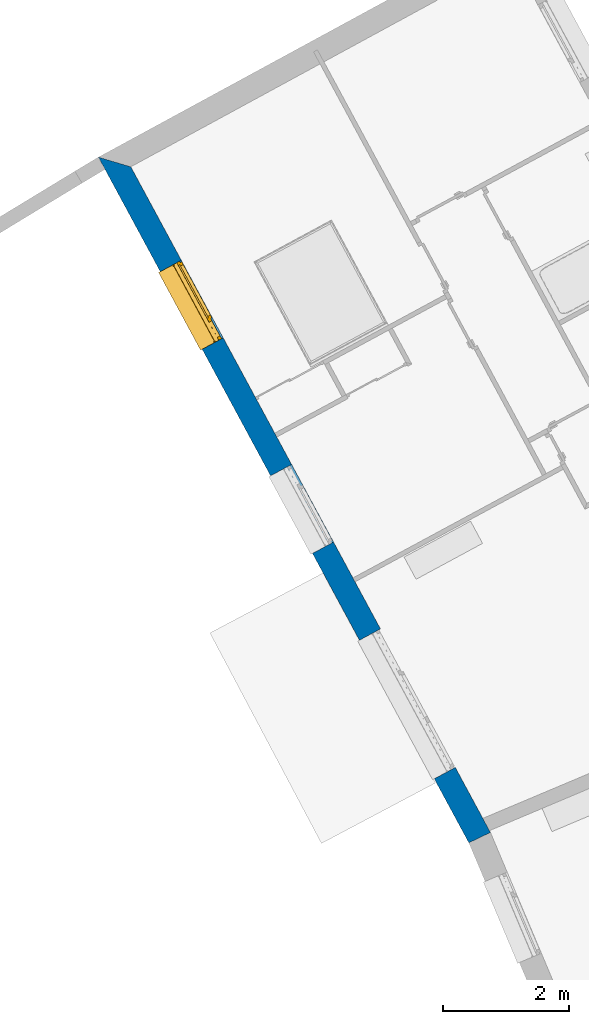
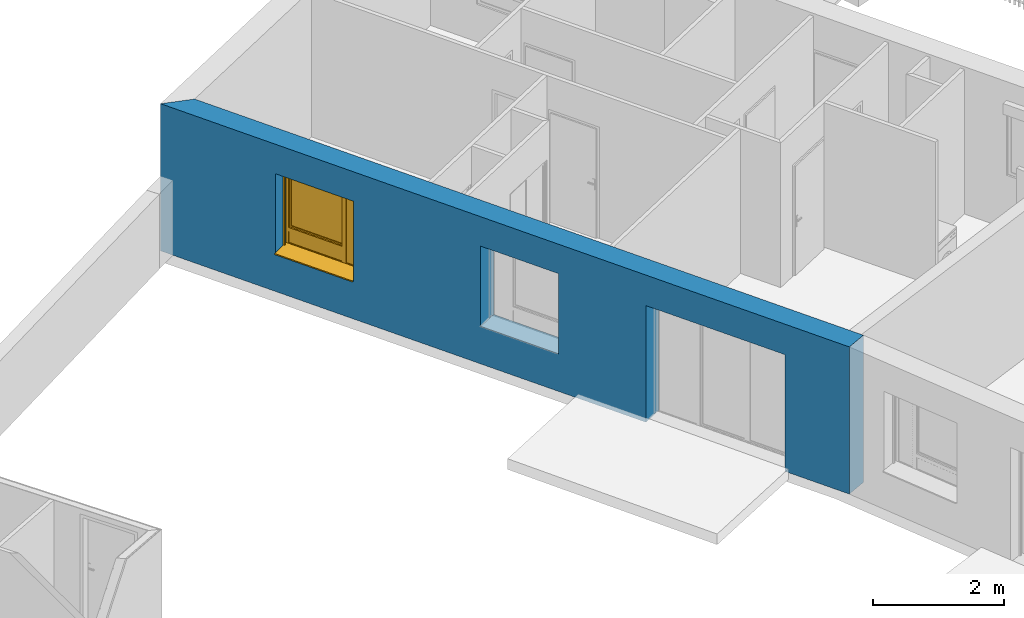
# One storey, part 60 of 195: 1 wall, 1 window, 3 openings.
"""IFC2X3 building model written with IfcOpenShell, lengths in metres."""

from ifc_helpers import new_model, entity, si_unit, converted_unit, derived_unit, money_unit, direction, frame, origin_with_axes, place, context, subcontext, project, spatial, polyline, outline, extrude, open_shell, faceted_brep, surface_model, source, transform, mapped, material, layer, layer_set, layer_usage, type_object, element, fill, save


model = new_model("IFC2X3")

# Units and contexts
model_context = context("Model", 3, precision=1e-05, world=origin_with_axes(), true_north=direction((0.0, 1.0)))
body_context = subcontext(model_context, "Body", "Model", "MODEL_VIEW")
ifc_project = project(units=[si_unit("LENGTHUNIT", "METRE"), si_unit("AREAUNIT", "SQUARE_METRE"), si_unit("VOLUMEUNIT", "CUBIC_METRE"), converted_unit("PLANEANGLEUNIT", "DEGREE", entity("IfcPlaneAngleMeasure", 0.0174532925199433), si_unit("PLANEANGLEUNIT", "RADIAN"), dimensions=[0, 0, 0, 0, 0, 0, 0]), money_unit("CHF"), converted_unit("TIMEUNIT", "Year", entity("IfcTimeMeasure", 31557600.0), si_unit("TIMEUNIT", "SECOND"), dimensions=[0, 0, 1, 0, 0, 0, 0]), si_unit("MASSUNIT", "GRAM", prefix="KILO"), si_unit("THERMODYNAMICTEMPERATUREUNIT", "DEGREE_CELSIUS"), si_unit("LUMINOUSINTENSITYUNIT", "LUMEN"), si_unit("ENERGYUNIT", "JOULE", prefix="MEGA"), derived_unit("THERMALCONDUCTANCEUNIT", [(si_unit("POWERUNIT", "WATT"), 1), (si_unit("LENGTHUNIT", "METRE"), -1), (si_unit("THERMODYNAMICTEMPERATUREUNIT", "KELVIN"), -1)]), derived_unit("SPECIFICHEATCAPACITYUNIT", [(si_unit("ENERGYUNIT", "JOULE"), 1), (si_unit("MASSUNIT", "GRAM", prefix="KILO"), -1), (si_unit("THERMODYNAMICTEMPERATUREUNIT", "KELVIN"), -1)]), derived_unit("MASSDENSITYUNIT", [(si_unit("MASSUNIT", "GRAM", prefix="KILO"), 1), (si_unit("VOLUMEUNIT", "CUBIC_METRE"), -1)])], contexts=[model_context])

# Site, building, storey
site_placement = place(None, origin_with_axes())
site = spatial("IfcSite", under=ifc_project, at=site_placement, Name="Site", CompositionType="ELEMENT")
building_placement = place(site_placement, origin_with_axes())
building = spatial("IfcBuilding", under=site, at=building_placement, Name="Bâtiment", CompositionType="ELEMENT")
storey_placement = place(building_placement, origin_with_axes())
storey = spatial("IfcBuildingStorey", under=building, at=storey_placement, Name="rdc", CompositionType="ELEMENT", Elevation=0.0)

# Wall, openings, window
ifc_material_1 = material(Name="Parpaing 312445824")
ifc_layer_1 = layer(ifc_material_1, 0.22, ventilated="UNKNOWN")
ifc_material_2 = material(Name="Isolant styromousse 301821074")
ifc_layer_2 = layer(ifc_material_2, 0.16, ventilated="UNKNOWN")
ifc_layer_set = layer_set([ifc_layer_1, ifc_layer_2], Name="isol int 22+16 0836643197")
ifc_layer_usage = layer_usage(ifc_layer_set, "AXIS2", "POSITIVE", 0.0)
wall_type = type_object("IfcWallType", Name="isol int 22+16 0836643197 380", PredefinedType="NOTDEFINED")
wall_placement = place(storey_placement, frame((9554.54696705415, -1027.671586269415, 57.7), z_axis=(0.0, 0.0, 1.0), x_axis=(0.4753186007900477, -0.8798137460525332, 0.0)))
wall = element("IfcWallStandardCase", 1, at=wall_placement, inside=storey, type_object=wall_type, material=ifc_layer_usage, Name="Mur-113", context=body_context, shape_type="SweptSolid", body=[
    extrude(outline(polyline([(0.0, 0.0), (12.38026928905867, 0.0), (12.39857098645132, 0.3799999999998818), (0.3790263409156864, 0.3799999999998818), (0.0, 0.0)])), origin_with_axes(), (0.0, 0.0, 1.0), 2.75),
])
opening_1_placement = place(wall_placement, frame((2.767904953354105, 0.0, 0.7000000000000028), z_axis=(0.0, 0.0, 1.0), x_axis=(1.0, 0.0, 0.0)))
opening_1 = element("IfcOpeningElement", 2, at=opening_1_placement, cuts=wall, Name="Fen-045", context=body_context, shape_type="Brep", body=[
    faceted_brep([(-0.7000000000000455, 0.4800000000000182, 1.5), (0.6999999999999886, 0.4800000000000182, 1.5), (0.6999999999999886, 5.558327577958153, 1.5), (-0.7000000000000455, 5.558327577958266, 1.5), (-0.7000000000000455, 0.4800000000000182, 1.700000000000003), (0.6999999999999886, 0.4800000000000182, 1.700000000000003), (0.6999999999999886, 0.2999999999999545, 1.5), (0.6999999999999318, 0.2999999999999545, 0.0), (0.6999999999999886, 5.558327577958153, 0.0), (-0.7000000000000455, 5.558327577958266, 0.0), (-0.7000000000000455, 0.2999999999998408, 1.5), (-0.7000000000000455, 0.2999999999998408, 0.0), (-0.7000000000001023, 0.2200000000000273, 1.5), (-0.7000000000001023, 0.2200000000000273, 1.700000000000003), (0.6999999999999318, 0.2200000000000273, 1.700000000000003), (0.6999999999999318, 0.2200000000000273, 1.5), (0.6999999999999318, -5.178327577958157, 1.5), (0.6999999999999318, -5.178327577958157, 0.0), (-0.7000000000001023, -5.178327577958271, 0.0), (-0.7000000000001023, -5.178327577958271, 1.5)], [[[0, 1, 2, 3]], [[1, 0, 4, 5]], [[1, 6, 7, 8, 2]], [[2, 8, 9, 3]], [[10, 0, 3, 9, 11]], [[0, 10, 12, 13, 4]], [[14, 5, 4, 13]], [[6, 1, 5, 14, 15]], [[6, 15, 16, 17, 7]], [[7, 11, 9, 8]], [[12, 10, 11, 18, 19]], [[12, 15, 14, 13]], [[15, 12, 19, 16]], [[19, 18, 17, 16]], [[11, 7, 17, 18]]]),
])
opening_2_placement = place(wall_placement, frame((9.97329666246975, 0.0, 0.0), z_axis=(0.0, 0.0, 1.0), x_axis=(1.0, 0.0, 0.0)))
element("IfcOpeningElement", 3, at=opening_2_placement, cuts=wall, Name="Fen-045", context=body_context, shape_type="Brep", body=[
    faceted_brep([(-1.25, 0.4800000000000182, 2.18), (1.25, 0.4800000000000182, 2.18), (1.25, 5.558327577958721, 2.18), (-1.250000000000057, 5.558327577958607, 2.18), (-1.25, 0.4800000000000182, 2.380000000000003), (1.25, 0.4800000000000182, 2.380000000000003), (1.25, 0.3000000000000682, 2.18), (1.25, 0.3000000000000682, 0.0), (1.25, 5.558327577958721, 0.0), (-1.250000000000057, 5.558327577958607, 0.0), (-1.250000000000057, 0.2999999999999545, 2.18), (-1.250000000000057, 0.2999999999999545, 0.0), (-1.250000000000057, 0.2199999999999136, 2.18), (-1.250000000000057, 0.2199999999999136, 2.380000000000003), (1.25, 0.2200000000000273, 2.380000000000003), (1.25, 0.2200000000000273, 2.18), (1.25, -5.17832757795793, 2.18), (1.25, -5.17832757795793, 0.0), (-1.25, -5.17832757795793, 0.0), (-1.25, -5.17832757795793, 2.18)], [[[0, 1, 2, 3]], [[1, 0, 4, 5]], [[1, 6, 7, 8, 2]], [[2, 8, 9, 3]], [[10, 0, 3, 9, 11]], [[0, 10, 12, 13, 4]], [[4, 13, 14, 5]], [[6, 1, 5, 14, 15]], [[6, 15, 16, 17, 7]], [[7, 11, 9, 8]], [[12, 10, 11, 18, 19]], [[12, 15, 14, 13]], [[15, 12, 19, 16]], [[19, 18, 17, 16]], [[11, 7, 17, 18]]]),
])
opening_3_placement = place(wall_placement, frame((6.454402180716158, 0.0, 0.7000000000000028), z_axis=(0.0, 0.0, 1.0), x_axis=(1.0, 0.0, 0.0)))
element("IfcOpeningElement", 4, at=opening_3_placement, cuts=wall, Name="Fen-045", context=body_context, shape_type="Brep", body=[
    faceted_brep([(-0.7000000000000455, 0.4800000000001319, 1.5), (0.6999999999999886, 0.4800000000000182, 1.5), (0.6999999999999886, 5.55832757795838, 1.5), (-0.7000000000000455, 5.55832757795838, 1.5), (-0.7000000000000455, 0.4800000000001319, 1.700000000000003), (0.6999999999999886, 0.4800000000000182, 1.700000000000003), (0.6999999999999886, 0.2999999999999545, 1.5), (0.6999999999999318, 0.2999999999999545, 0.0), (0.6999999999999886, 5.55832757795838, 0.0), (-0.7000000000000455, 5.55832757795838, 0.0), (-0.7000000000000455, 0.2999999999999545, 1.5), (-0.7000000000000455, 0.2999999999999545, 0.0), (-0.7000000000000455, 0.2200000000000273, 1.5), (-0.7000000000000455, 0.2200000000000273, 1.700000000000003), (0.6999999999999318, 0.2200000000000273, 1.700000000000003), (0.6999999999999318, 0.2200000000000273, 1.5), (0.6999999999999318, -5.178327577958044, 1.5), (0.6999999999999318, -5.178327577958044, 0.0), (-0.7000000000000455, -5.178327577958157, 0.0), (-0.7000000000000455, -5.178327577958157, 1.5)], [[[0, 1, 2, 3]], [[1, 0, 4, 5]], [[1, 6, 7, 8, 2]], [[2, 8, 9, 3]], [[10, 0, 3, 9, 11]], [[0, 10, 12, 13, 4]], [[4, 13, 14, 5]], [[6, 1, 5, 14, 15]], [[6, 15, 16, 17, 7]], [[7, 11, 9, 8]], [[12, 10, 11, 18, 19]], [[12, 15, 14, 13]], [[15, 12, 19, 16]], [[19, 18, 17, 16]], [[11, 7, 17, 18]]]),
])
window_style = type_object("IfcWindowStyle", Name="Fenêtre variable 27", ConstructionType="NOTDEFINED", OperationType="TRIPLE_PANEL_RIGHT", ParameterTakesPrecedence=False, Sizeable=False)
shared_shape = source(origin_with_axes(), body_context, "Body", "SurfaceModel", [
    surface_model("IfcShellBasedSurfaceModel", [(-0.7, -0.05100000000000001, 0.05), (-0.7, -0.05100000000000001, 0.04), (0.7, -0.05100000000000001, 0.04000000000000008), (0.7, -0.05100000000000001, 0.05000000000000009), (-0.7, -0.3799999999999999, 0.02899999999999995), (0.7, -0.3799999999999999, 0.02900000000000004), (-0.7, -0.3799999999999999, 0.008999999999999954), (0.7, -0.3799999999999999, 0.00900000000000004), (-0.7, -0.3699999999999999, 0.01899999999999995), (0.7, -0.3699999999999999, 0.01900000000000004)], [open_shell([[[0, 1, 2, 3]], [[1, 4, 5, 2]], [[4, 6, 7, 5]], [[6, 8, 9, 7]]])]),
    faceted_brep([(-0.7, -0.13, 1.7), (-0.697, -0.13, 1.7), (-0.697, 0.13, 1.7), (-0.7, 0.13, 1.7), (-0.7, -0.13, 1.5), (-0.697, -0.13, 1.5), (-0.697, 0.13, 1.5), (-0.7, 0.13, 1.5)], [[[0, 1, 2, 3]], [[4, 5, 1, 0]], [[1, 5, 6, 2]], [[3, 2, 6, 7]], [[0, 3, 7, 4]], [[7, 6, 5, 4]]]),
    faceted_brep([(0.6970000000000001, -0.1299999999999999, 1.7), (0.7000000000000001, -0.1299999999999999, 1.7), (0.7000000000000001, 0.1300000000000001, 1.7), (0.6970000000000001, 0.1300000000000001, 1.7), (0.6970000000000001, -0.1299999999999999, 1.5), (0.7000000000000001, -0.1299999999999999, 1.5), (0.7000000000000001, 0.1300000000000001, 1.5), (0.6970000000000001, 0.1300000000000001, 1.5)], [[[0, 1, 2, 3]], [[4, 5, 1, 0]], [[1, 5, 6, 2]], [[3, 2, 6, 7]], [[0, 3, 7, 4]], [[7, 6, 5, 4]]]),
    faceted_brep([(-0.697, -0.13, 1.5), (0.697, -0.1299999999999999, 1.5), (0.697, -0.1299999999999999, 1.7), (-0.697, -0.13, 1.7), (-0.697, -0.127, 1.5), (0.697, -0.1269999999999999, 1.5), (0.697, -0.1269999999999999, 1.697), (0.697, 0.1270000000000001, 1.697), (0.697, 0.1270000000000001, 1.503), (0.697, -0.1079999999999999, 1.503), (0.697, -0.1079999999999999, 1.5), (0.697, 0.1300000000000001, 1.5), (0.697, 0.1300000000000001, 1.7), (-0.697, 0.13, 1.7), (-0.697, 0.13, 1.5), (-0.697, -0.108, 1.5), (-0.697, -0.108, 1.503), (-0.697, 0.127, 1.503), (-0.697, 0.127, 1.697), (-0.697, -0.127, 1.697)], [[[0, 1, 2, 3]], [[4, 5, 1, 0]], [[1, 5, 6, 7, 8, 9, 10, 11, 12, 2]], [[3, 2, 12, 13]], [[0, 3, 13, 14, 15, 16, 17, 18, 19, 4]], [[19, 6, 5, 4]], [[18, 7, 6, 19]], [[17, 8, 7, 18]], [[16, 9, 8, 17]], [[15, 10, 9, 16]], [[14, 11, 10, 15]], [[13, 12, 11, 14]]]),
    faceted_brep([(-0.694, -0.08075423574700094, 1.585760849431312), (-0.694, -0.08200000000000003, 1.6), (-0.694, -0.0807542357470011, 1.614239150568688), (-0.694, -0.07705479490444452, 1.628045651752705), (-0.694, -0.07101408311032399, 1.641), (-0.694, -0.06281564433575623, 1.652708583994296), (-0.694, -0.05270858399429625, 1.662815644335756), (-0.694, -0.04100000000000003, 1.671014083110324), (-0.694, -0.02804565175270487, 1.677054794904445), (-0.694, -0.01423915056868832, 1.680754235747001), (-0.694, 0.0, 1.682), (-0.694, 0.01423915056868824, 1.680754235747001), (-0.694, 0.02804565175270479, 1.677054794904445), (-0.694, 0.04099999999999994, 1.671014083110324), (-0.694, 0.05270858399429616, 1.662815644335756), (-0.694, 0.06281564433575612, 1.652708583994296), (-0.694, 0.07101408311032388, 1.641), (-0.694, 0.0770547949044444, 1.628045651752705), (-0.694, 0.08075423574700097, 1.614239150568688), (-0.694, 0.0819999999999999, 1.6), (-0.694, 0.08075423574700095, 1.585760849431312), (-0.694, 0.07705479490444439, 1.571954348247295), (-0.694, 0.07101408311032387, 1.559), (-0.694, 0.06281564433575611, 1.547291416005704), (-0.694, 0.05270858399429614, 1.537184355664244), (-0.694, 0.04099999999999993, 1.528985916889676), (-0.694, 0.02804565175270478, 1.522945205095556), (-0.694, 0.01423915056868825, 1.519245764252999), (-0.694, 0.0, 1.518), (-0.694, -0.01423915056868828, 1.519245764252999), (-0.694, -0.02804565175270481, 1.522945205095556), (-0.694, -0.04099999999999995, 1.528985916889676), (-0.694, -0.05270858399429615, 1.537184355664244), (-0.694, -0.06281564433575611, 1.547291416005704), (-0.694, -0.07101408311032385, 1.559), (-0.694, -0.07705479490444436, 1.571954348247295), (0.694, -0.08075423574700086, 1.585760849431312), (0.694, -0.08199999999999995, 1.6), (0.694, -0.08075423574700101, 1.614239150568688), (0.694, -0.07705479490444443, 1.628045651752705), (0.694, -0.07101408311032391, 1.641), (0.694, -0.06281564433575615, 1.652708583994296), (0.694, -0.05270858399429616, 1.662815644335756), (0.694, -0.04099999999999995, 1.671014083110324), (0.694, -0.02804565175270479, 1.677054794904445), (0.694, -0.01423915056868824, 1.680754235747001), (0.694, 0.0, 1.682), (0.694, 0.01423915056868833, 1.680754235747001), (0.694, 0.02804565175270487, 1.677054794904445), (0.694, 0.04100000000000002, 1.671014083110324), (0.694, 0.05270858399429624, 1.662815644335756), (0.694, 0.0628156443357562, 1.652708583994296), (0.694, 0.07101408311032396, 1.641), (0.694, 0.07705479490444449, 1.628045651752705), (0.694, 0.08075423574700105, 1.614239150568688), (0.694, 0.08199999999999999, 1.6), (0.694, 0.08075423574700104, 1.585760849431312), (0.694, 0.07705479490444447, 1.571954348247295), (0.694, 0.07101408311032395, 1.559), (0.694, 0.06281564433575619, 1.547291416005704), (0.694, 0.05270858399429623, 1.537184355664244), (0.694, 0.04100000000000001, 1.528985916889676), (0.694, 0.02804565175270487, 1.522945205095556), (0.694, 0.01423915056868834, 1.519245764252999), (0.694, 0.0, 1.518), (0.694, -0.0142391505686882, 1.519245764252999), (0.694, -0.02804565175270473, 1.522945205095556), (0.694, -0.04099999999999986, 1.528985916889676), (0.694, -0.05270858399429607, 1.537184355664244), (0.694, -0.06281564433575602, 1.547291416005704), (0.694, -0.07101408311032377, 1.559), (0.694, -0.07705479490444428, 1.571954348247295)], [[[0, 1, 2, 3, 4, 5, 6, 7, 8, 9, 10, 11, 12, 13, 14, 15, 16, 17, 18, 19, 20, 21, 22, 23, 24, 25, 26, 27, 28, 29, 30, 31, 32, 33, 34, 35]], [[0, 36, 37, 1]], [[1, 37, 38, 2]], [[2, 38, 39, 3]], [[3, 39, 40, 4]], [[4, 40, 41, 5]], [[5, 41, 42, 6]], [[6, 42, 43, 7]], [[7, 43, 44, 8]], [[8, 44, 45, 9]], [[9, 45, 46, 10]], [[10, 46, 47, 11]], [[11, 47, 48, 12]], [[12, 48, 49, 13]], [[13, 49, 50, 14]], [[14, 50, 51, 15]], [[15, 51, 52, 16]], [[16, 52, 53, 17]], [[17, 53, 54, 18]], [[18, 54, 55, 19]], [[19, 55, 56, 20]], [[20, 56, 57, 21]], [[21, 57, 58, 22]], [[22, 58, 59, 23]], [[23, 59, 60, 24]], [[24, 60, 61, 25]], [[25, 61, 62, 26]], [[26, 62, 63, 27]], [[27, 63, 64, 28]], [[28, 64, 65, 29]], [[29, 65, 66, 30]], [[30, 66, 67, 31]], [[31, 67, 68, 32]], [[32, 68, 69, 33]], [[33, 69, 70, 34]], [[34, 70, 71, 35]], [[35, 71, 36, 0]], [[36, 71, 70, 69, 68, 67, 66, 65, 64, 63, 62, 61, 60, 59, 58, 57, 56, 55, 54, 53, 52, 51, 50, 49, 48, 47, 46, 45, 44, 43, 42, 41, 40, 39, 38, 37]]]),
    faceted_brep([(0.7, -0.105, 0.03), (0.7, -0.1049999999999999, 1.5), (0.7, -0.1299999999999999, 1.5), (0.7, -0.13, 0.03), (0.6749999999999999, -0.105, 0.03), (0.6749999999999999, -0.1049999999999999, 1.5), (0.6749999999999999, -0.1079999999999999, 1.5), (0.697, -0.1079999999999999, 1.5), (0.697, -0.1269999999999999, 1.5), (0.6749999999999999, -0.1269999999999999, 1.5), (0.6749999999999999, -0.1299999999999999, 1.5), (0.6749999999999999, -0.13, 0.03), (0.6749999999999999, -0.127, 0.03), (0.697, -0.127, 0.03), (0.697, -0.108, 0.03), (0.6749999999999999, -0.108, 0.03)], [[[0, 1, 2, 3]], [[4, 5, 1, 0]], [[1, 5, 6, 7, 8, 9, 10, 2]], [[3, 2, 10, 11]], [[0, 3, 11, 12, 13, 14, 15, 4]], [[15, 6, 5, 4]], [[14, 7, 6, 15]], [[13, 8, 7, 14]], [[12, 9, 8, 13]], [[11, 10, 9, 12]]]),
    faceted_brep([(-0.7, -0.105, 0.03), (-0.7, -0.13, 0.03), (-0.7, -0.1299999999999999, 1.5), (-0.7, -0.1049999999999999, 1.5), (-0.6749999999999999, -0.105, 0.03), (-0.6749999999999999, -0.108, 0.03), (-0.697, -0.108, 0.03), (-0.697, -0.127, 0.03), (-0.6749999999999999, -0.127, 0.03), (-0.6749999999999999, -0.13, 0.03), (-0.6749999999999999, -0.1299999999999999, 1.5), (-0.6749999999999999, -0.1269999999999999, 1.5), (-0.697, -0.1269999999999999, 1.5), (-0.697, -0.1079999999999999, 1.5), (-0.6749999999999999, -0.1079999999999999, 1.5), (-0.6749999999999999, -0.1049999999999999, 1.5)], [[[0, 1, 2, 3]], [[0, 4, 5, 6, 7, 8, 9, 1]], [[1, 9, 10, 2]], [[3, 2, 10, 11, 12, 13, 14, 15]], [[4, 0, 3, 15]], [[5, 4, 15, 14]], [[6, 5, 14, 13]], [[7, 6, 13, 12]], [[8, 7, 12, 11]], [[9, 8, 11, 10]]]),
    surface_model("IfcShellBasedSurfaceModel", [(-0.697, -0.115, 1.6), (0.697, -0.1149999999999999, 1.6), (0.697, -0.1199999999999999, 1.6), (-0.697, -0.12, 1.6), (-0.697, -0.115, 1.6), (-0.697, -0.12, 1.6), (0.697, -0.12, 1.6), (0.697, -0.1149999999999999, 1.6)], [open_shell([[[0, 1, 2, 3]], [[4, 5, 6, 7]]])]),
    faceted_brep([(-0.697, -0.115, 1.6), (0.697, -0.1149999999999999, 1.6), (0.697, -0.1166666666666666, 1.583333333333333), (-0.697, -0.1166666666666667, 1.583333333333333), (-0.697, -0.12, 1.6), (0.697, -0.1199999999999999, 1.6), (0.697, -0.1216666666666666, 1.583333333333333), (0.697, -0.1216666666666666, 1.566666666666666), (0.697, -0.1199999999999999, 1.55), (0.697, -0.1149999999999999, 1.55), (0.697, -0.1166666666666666, 1.566666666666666), (-0.697, -0.1166666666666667, 1.566666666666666), (-0.697, -0.115, 1.55), (-0.697, -0.12, 1.55), (-0.697, -0.1216666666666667, 1.566666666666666), (-0.697, -0.1216666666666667, 1.583333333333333)], [[[0, 1, 2, 3]], [[4, 5, 1, 0]], [[1, 5, 6, 7, 8, 9, 10, 2]], [[3, 2, 10, 11]], [[0, 3, 11, 12, 13, 14, 15, 4]], [[15, 6, 5, 4]], [[14, 7, 6, 15]], [[13, 8, 7, 14]], [[12, 9, 8, 13]], [[11, 10, 9, 12]]]),
    faceted_brep([(-0.697, -0.115, 1.55), (0.697, -0.1149999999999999, 1.55), (0.697, -0.1166666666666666, 1.533333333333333), (-0.697, -0.1166666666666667, 1.533333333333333), (-0.697, -0.12, 1.55), (0.697, -0.1199999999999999, 1.55), (0.697, -0.1216666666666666, 1.533333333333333), (0.697, -0.1216666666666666, 1.516666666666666), (0.697, -0.1199999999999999, 1.5), (0.697, -0.1149999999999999, 1.5), (0.697, -0.1166666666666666, 1.516666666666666), (-0.697, -0.1166666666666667, 1.516666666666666), (-0.697, -0.115, 1.5), (-0.697, -0.12, 1.5), (-0.697, -0.1216666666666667, 1.516666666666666), (-0.697, -0.1216666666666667, 1.533333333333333)], [[[0, 1, 2, 3]], [[4, 5, 1, 0]], [[1, 5, 6, 7, 8, 9, 10, 2]], [[3, 2, 10, 11]], [[0, 3, 11, 12, 13, 14, 15, 4]], [[15, 6, 5, 4]], [[14, 7, 6, 15]], [[13, 8, 7, 14]], [[12, 9, 8, 13]], [[11, 10, 9, 12]]]),
    faceted_brep([(-0.6749999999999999, 0.0, 1.45), (-0.7, 0.0, 1.45), (-0.7, -0.05000000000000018, 1.45), (-0.6499999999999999, -0.05000000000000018, 1.45), (-0.6499999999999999, -0.02500000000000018, 1.45), (-0.6749999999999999, -0.02500000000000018, 1.45), (-0.6749999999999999, 0.0, 0.3099999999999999), (-0.6499999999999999, 0.0, 0.3099999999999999), (-0.6499999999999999, 0.0, 0.265), (-0.6499999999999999, 0.0, 0.05000000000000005), (-0.7, 0.0, 0.05000000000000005), (-0.7, -0.05000000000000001, 0.05000000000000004), (-0.6499999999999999, -0.05000000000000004, 0.335), (-0.6499999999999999, -0.05000000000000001, 0.05000000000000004), (-0.6499999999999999, -0.05000000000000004, 0.265), (-0.6499999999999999, -0.02500000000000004, 0.335), (-0.6499999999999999, -0.02500000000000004, 0.3099999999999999), (-0.6749999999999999, -0.02500000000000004, 0.3099999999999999)], [[[0, 1, 2, 3, 4, 5]], [[6, 7, 8, 9, 10, 1, 0]], [[1, 10, 11, 2]], [[12, 3, 2, 11, 13, 14]], [[4, 3, 12, 15]], [[15, 16, 17, 5, 4]], [[5, 17, 6, 0]], [[6, 17, 16, 7]], [[16, 15, 12, 14, 8, 7]], [[9, 8, 14, 13]], [[10, 9, 13, 11]]]),
    faceted_brep([(0.3068894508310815, -0.02500000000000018, 1.45), (0.3068894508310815, -0.05000000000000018, 1.45), (0.3768894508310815, -0.05000000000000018, 1.45), (0.3768894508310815, 0.0, 1.45), (0.3318894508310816, 0.0, 1.45), (0.3318894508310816, -0.02500000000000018, 1.45), (0.3068894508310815, -0.02500000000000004, 0.335), (0.3068894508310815, -0.05000000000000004, 0.335), (0.3068894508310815, -0.05000000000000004, 0.265), (0.3068894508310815, -0.05000000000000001, 0.05000000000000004), (0.3768894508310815, -0.05000000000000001, 0.05000000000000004), (0.3768894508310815, 0.0, 0.05000000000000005), (0.3318894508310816, 0.0, 0.3099999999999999), (0.3068894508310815, 0.0, 0.05000000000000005), (0.3068894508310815, 0.0, 0.265), (0.3068894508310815, 0.0, 0.3099999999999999), (0.3318894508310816, -0.02500000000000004, 0.3099999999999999), (0.3068894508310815, -0.02500000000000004, 0.3099999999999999)], [[[0, 1, 2, 3, 4, 5]], [[6, 7, 1, 0]], [[8, 9, 10, 2, 1, 7]], [[11, 3, 2, 10]], [[12, 4, 3, 11, 13, 14, 15]], [[12, 16, 5, 4]], [[5, 16, 17, 6, 0]], [[17, 15, 14, 8, 7, 6]], [[14, 13, 9, 8]], [[13, 11, 10, 9]], [[15, 17, 16, 12]]]),
    faceted_brep([(-0.6499999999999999, -0.02500000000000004, 0.335), (-0.6499999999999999, -0.05000000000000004, 0.335), (0.3068894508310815, -0.05000000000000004, 0.335), (0.3068894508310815, -0.02500000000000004, 0.335), (-0.6499999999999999, -0.02500000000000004, 0.3099999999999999), (-0.6499999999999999, 0.0, 0.3099999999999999), (-0.6499999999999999, 0.0, 0.265), (-0.6499999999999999, -0.05000000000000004, 0.265), (0.3068894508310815, -0.05000000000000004, 0.265), (0.3068894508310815, -0.02500000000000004, 0.3099999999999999), (0.3068894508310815, 0.0, 0.265), (0.3068894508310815, 0.0, 0.3099999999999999)], [[[0, 1, 2, 3]], [[4, 5, 6, 7, 1, 0]], [[2, 1, 7, 8]], [[9, 3, 2, 8, 10, 11]], [[9, 4, 0, 3]], [[5, 4, 9, 11]], [[11, 10, 6, 5]], [[6, 10, 8, 7]]]),
    faceted_brep([(-0.6749999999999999, 0.0, 1.45), (-0.7, 0.0, 1.45), (-0.7, 0.0, 1.5), (0.7, 0.0, 1.5), (0.7, 0.0, 1.45), (0.6499999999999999, 0.0, 1.45), (0.3768894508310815, 0.0, 1.45), (0.3318894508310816, 0.0, 1.45), (0.3318894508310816, 0.0, 1.475), (-0.6749999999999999, 0.0, 1.475), (-0.6749999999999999, -0.02500000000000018, 1.45), (-0.6499999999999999, -0.02500000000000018, 1.45), (-0.6499999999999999, -0.05000000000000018, 1.45), (-0.7, -0.05000000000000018, 1.45), (-0.7, -0.05000000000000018, 1.5), (0.7, -0.05000000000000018, 1.5), (0.7, -0.05000000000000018, 1.45), (0.6499999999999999, -0.05000000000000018, 1.45), (0.3768894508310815, -0.05000000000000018, 1.45), (0.3318894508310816, -0.02500000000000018, 1.45), (0.3068894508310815, -0.05000000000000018, 1.45), (0.3068894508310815, -0.02500000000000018, 1.45), (0.3318894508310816, -0.02500000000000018, 1.475), (-0.6749999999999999, -0.02500000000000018, 1.475)], [[[0, 1, 2, 3, 4, 5, 6, 7, 8, 9]], [[10, 11, 12, 13, 1, 0]], [[2, 1, 13, 14]], [[3, 2, 14, 15]], [[4, 3, 15, 16]], [[5, 4, 16, 17]], [[6, 5, 17, 18]], [[19, 7, 6, 18, 20, 21]], [[7, 19, 22, 8]], [[8, 22, 23, 9]], [[9, 23, 10, 0]], [[21, 11, 10, 23, 22, 19]], [[21, 20, 12, 11]], [[18, 17, 16, 15, 14, 13, 12, 20]]]),
    faceted_brep([(0.6499999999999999, -0.05000000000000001, 0.05), (0.6499999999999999, 0.0, 0.05000000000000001), (0.7, 0.0, 0.05000000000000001), (0.7, -0.05000000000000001, 0.05), (0.6499999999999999, -0.05000000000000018, 1.45), (0.6499999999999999, 0.0, 1.45), (0.7, 0.0, 1.45), (0.7, -0.05000000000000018, 1.45)], [[[0, 1, 2, 3]], [[4, 5, 1, 0]], [[1, 5, 6, 2]], [[3, 2, 6, 7]], [[0, 3, 7, 4]], [[7, 6, 5, 4]]]),
    faceted_brep([(-0.6499999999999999, -0.05000000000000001, 0.05), (-0.6499999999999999, 0.0, 0.05000000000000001), (-0.7, 0.0, 0.05000000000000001), (-0.7, -0.05000000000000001, 0.05), (0.3068894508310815, -0.05000000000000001, 0.05), (0.3068894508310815, 0.0, 0.05000000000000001), (0.3768894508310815, 0.0, 0.05000000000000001), (0.6499999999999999, 0.0, 0.05000000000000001), (0.7, 0.0, 0.05000000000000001), (0.7, 0.0, 0.0), (-0.7, 0.0, 0.0), (-0.7, -0.05, 0.0), (0.7, -0.05, 0.0), (0.7, -0.05000000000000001, 0.05), (0.6499999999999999, -0.05000000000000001, 0.05), (0.3768894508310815, -0.05000000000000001, 0.05)], [[[0, 1, 2, 3]], [[4, 5, 1, 0]], [[1, 5, 6, 7, 8, 9, 10, 2]], [[3, 2, 10, 11]], [[0, 3, 11, 12, 13, 14, 15, 4]], [[15, 6, 5, 4]], [[14, 7, 6, 15]], [[13, 8, 7, 14]], [[12, 9, 8, 13]], [[11, 10, 9, 12]]]),
    faceted_brep([(-0.625, -0.02500000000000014, 1.425), (-0.625, 0.02499999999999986, 1.425), (-0.6749999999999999, 0.02499999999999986, 1.425), (-0.6749999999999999, -0.02500000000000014, 1.425), (-0.625, -0.02500000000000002, 0.3599999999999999), (-0.625, 0.02499999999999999, 0.3599999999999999), (-0.6749999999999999, 0.02499999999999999, 0.3599999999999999), (-0.6749999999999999, -0.02500000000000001, 0.3599999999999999)], [[[0, 1, 2, 3]], [[4, 5, 1, 0]], [[1, 5, 6, 2]], [[3, 2, 6, 7]], [[0, 3, 7, 4]], [[7, 6, 5, 4]]]),
    faceted_brep([(0.2818894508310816, -0.02500000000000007, 0.3599999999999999), (0.2818894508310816, 0.02499999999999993, 0.3599999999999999), (0.3318894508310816, 0.02499999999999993, 0.3599999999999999), (0.3318894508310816, -0.02500000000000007, 0.3599999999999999), (0.2818894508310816, -0.0250000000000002, 1.425), (0.2818894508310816, 0.0249999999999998, 1.425), (0.3318894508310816, 0.0249999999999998, 1.425), (0.3318894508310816, -0.0250000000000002, 1.425)], [[[0, 1, 2, 3]], [[4, 5, 1, 0]], [[1, 5, 6, 2]], [[3, 2, 6, 7]], [[0, 3, 7, 4]], [[7, 6, 5, 4]]]),
    faceted_brep([(0.3318894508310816, -0.02500000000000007, 0.3099999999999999), (0.3318894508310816, 0.02499999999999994, 0.3099999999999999), (0.3318894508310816, 0.02499999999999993, 0.3599999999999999), (0.3318894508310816, -0.02500000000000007, 0.3599999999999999), (-0.6749999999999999, -0.025, 0.3099999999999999), (-0.6749999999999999, 0.02499999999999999, 0.3099999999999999), (-0.6749999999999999, 0.02499999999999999, 0.3599999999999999), (-0.625, 0.02499999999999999, 0.3599999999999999), (0.2818894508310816, 0.02499999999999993, 0.3599999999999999), (0.2818894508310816, -0.02500000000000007, 0.3599999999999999), (-0.625, -0.02500000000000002, 0.3599999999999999), (-0.6749999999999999, -0.02500000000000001, 0.3599999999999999)], [[[0, 1, 2, 3]], [[4, 5, 1, 0]], [[1, 5, 6, 7, 8, 2]], [[3, 2, 8, 9]], [[0, 3, 9, 10, 11, 4]], [[11, 6, 5, 4]], [[10, 7, 6, 11]], [[9, 8, 7, 10]]]),
    faceted_brep([(-0.6749999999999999, -0.02500000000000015, 1.475), (-0.6749999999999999, 0.02499999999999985, 1.475), (-0.6749999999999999, 0.02499999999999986, 1.425), (-0.6749999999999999, -0.02500000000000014, 1.425), (0.3318894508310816, -0.02500000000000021, 1.475), (0.3318894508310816, 0.02499999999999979, 1.475), (0.3318894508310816, 0.0249999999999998, 1.425), (0.2818894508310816, 0.0249999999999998, 1.425), (-0.625, 0.02499999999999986, 1.425), (-0.625, -0.02500000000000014, 1.425), (0.2818894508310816, -0.0250000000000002, 1.425), (0.3318894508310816, -0.0250000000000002, 1.425)], [[[0, 1, 2, 3]], [[4, 5, 1, 0]], [[1, 5, 6, 7, 8, 2]], [[3, 2, 8, 9]], [[0, 3, 9, 10, 11, 4]], [[11, 6, 5, 4]], [[10, 7, 6, 11]], [[9, 8, 7, 10]]]),
    surface_model("IfcShellBasedSurfaceModel", [(-0.625, -0.01000000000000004, 0.3599999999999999), (0.2818894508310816, -0.01000000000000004, 0.3599999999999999), (0.2818894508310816, -0.01000000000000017, 1.425), (-0.625, -0.01000000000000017, 1.425)], [open_shell([[[0, 1, 2, 3]]])]),
    surface_model("IfcShellBasedSurfaceModel", [(-0.625, 0.009999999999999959, 0.3599999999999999), (-0.625, 0.00999999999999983, 1.425), (0.2818894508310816, 0.00999999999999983, 1.425), (0.2818894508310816, 0.009999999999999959, 0.3599999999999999)], [open_shell([[[0, 1, 2, 3]]])]),
    surface_model("IfcShellBasedSurfaceModel", [(0.3768894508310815, -0.035, 0.05), (0.65, -0.035, 0.05), (0.65, -0.03500000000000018, 1.45), (0.3768894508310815, -0.03500000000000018, 1.45)], [open_shell([[[0, 1, 2, 3]]])]),
    surface_model("IfcShellBasedSurfaceModel", [(0.3768894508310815, -0.015, 0.05), (0.3768894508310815, -0.01500000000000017, 1.45), (0.65, -0.01500000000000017, 1.45), (0.65, -0.015, 0.05)], [open_shell([[[0, 1, 2, 3]]])]),
    surface_model("IfcShellBasedSurfaceModel", [(-0.6499999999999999, -0.035, 0.05), (0.3068894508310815, -0.035, 0.05), (0.3068894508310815, -0.03500000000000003, 0.265), (-0.6499999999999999, -0.03500000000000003, 0.265)], [open_shell([[[0, 1, 2, 3]]])]),
    surface_model("IfcShellBasedSurfaceModel", [(-0.6499999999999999, -0.015, 0.05), (-0.6499999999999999, -0.01500000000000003, 0.265), (0.3068894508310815, -0.01500000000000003, 0.265), (0.3068894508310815, -0.015, 0.05)], [open_shell([[[0, 1, 2, 3]]])]),
])
window_placement = place(opening_1_placement, frame((-0.7000000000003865, 0.0, 0.0), z_axis=(0.0, 0.0, 1.0), x_axis=(1.0, 0.0, 0.0)))
window = element("IfcWindow", 5, at=window_placement, inside=storey, type_object=window_style, Name="Fen-045", OverallHeight=1.5, OverallWidth=1.4, context=body_context, shape_type="MappedRepresentation", body=[
    mapped(shared_shape, transform((0.7000000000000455, 0.3500000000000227, 0.0))),
])
fill(opening_1, window)

save(model, "model.ifc")
